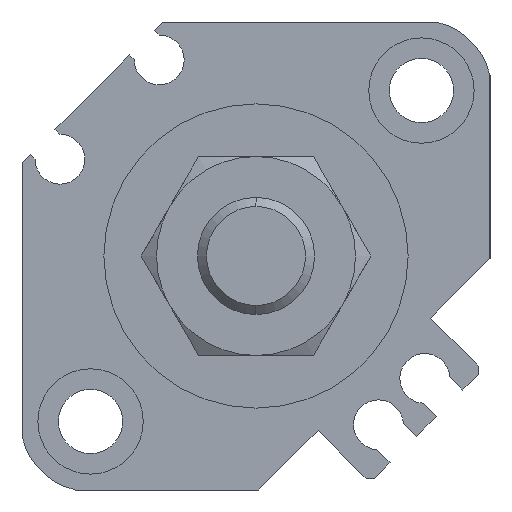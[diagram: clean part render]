
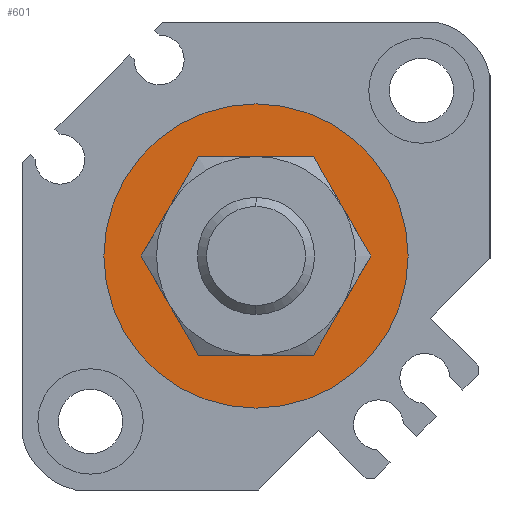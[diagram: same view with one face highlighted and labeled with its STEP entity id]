
A CAD part, left-side view. The second image highlights one B-rep face of the part: STEP entity #601.
In plain terms, the highlighted planar face has unit normal (-1, 0, 0).
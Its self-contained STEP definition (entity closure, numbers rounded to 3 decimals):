
#241 = DIRECTION ( 'NONE',  ( 1., 0., 0. ) ) ;
#343 = AXIS2_PLACEMENT_3D ( 'NONE', #344, #3637, #2446 ) ;
#344 = CARTESIAN_POINT ( 'NONE',  ( 1.9, 0., 0. ) ) ;
#488 = VERTEX_POINT ( 'NONE', #2181 ) ;
#600 = CIRCLE ( 'NONE', #2084, 7.5 ) ;
#601 = ADVANCED_FACE ( 'NONE', ( #4893, #3983 ), #3566, .F. ) ;
#632 = AXIS2_PLACEMENT_3D ( 'NONE', #2685, #2663, #1864 ) ;
#689 = CIRCLE ( 'NONE', #343, 13. ) ;
#704 = CARTESIAN_POINT ( 'NONE',  ( 1.9, 0., 0. ) ) ;
#790 = VERTEX_POINT ( 'NONE', #2851 ) ;
#1027 = DIRECTION ( 'NONE',  ( 0., 1., 0. ) ) ;
#1249 = ORIENTED_EDGE ( 'NONE', *, *, #5092, .T. ) ;
#1351 = CARTESIAN_POINT ( 'NONE',  ( 1.9, 0., 7.5 ) ) ;
#1459 = DIRECTION ( 'NONE',  ( 1., 0., 0. ) ) ;
#1807 = VERTEX_POINT ( 'NONE', #1351 ) ;
#1827 = CIRCLE ( 'NONE', #4887, 13. ) ;
#1864 = DIRECTION ( 'NONE',  ( 0., 0., -1. ) ) ;
#1911 = EDGE_CURVE ( 'NONE', #5201, #1807, #5097, .T. ) ;
#2084 = AXIS2_PLACEMENT_3D ( 'NONE', #2307, #1459, #3902 ) ;
#2181 = CARTESIAN_POINT ( 'NONE',  ( 1.9, 0., -13. ) ) ;
#2240 = DIRECTION ( 'NONE',  ( 1., 0., 0. ) ) ;
#2295 = AXIS2_PLACEMENT_3D ( 'NONE', #704, #241, #1027 ) ;
#2307 = CARTESIAN_POINT ( 'NONE',  ( 1.9, 0., 0. ) ) ;
#2446 = DIRECTION ( 'NONE',  ( 0., 0., -1. ) ) ;
#2587 = EDGE_LOOP ( 'NONE', ( #3935, #3874 ) ) ;
#2663 = DIRECTION ( 'NONE',  ( 1., 0., 0. ) ) ;
#2685 = CARTESIAN_POINT ( 'NONE',  ( 1.9, 0., 0. ) ) ;
#2851 = CARTESIAN_POINT ( 'NONE',  ( 1.9, 0., 13. ) ) ;
#3491 = CARTESIAN_POINT ( 'NONE',  ( 1.9, 0., 0. ) ) ;
#3566 = PLANE ( 'NONE',  #2295 ) ;
#3637 = DIRECTION ( 'NONE',  ( 1., 0., 0. ) ) ;
#3874 = ORIENTED_EDGE ( 'NONE', *, *, #4239, .F. ) ;
#3902 = DIRECTION ( 'NONE',  ( 0., 0., -1. ) ) ;
#3928 = CARTESIAN_POINT ( 'NONE',  ( 1.9, 0., -7.5 ) ) ;
#3935 = ORIENTED_EDGE ( 'NONE', *, *, #5268, .F. ) ;
#3983 = FACE_BOUND ( 'NONE', #4603, .T. ) ;
#4131 = ORIENTED_EDGE ( 'NONE', *, *, #1911, .T. ) ;
#4239 = EDGE_CURVE ( 'NONE', #488, #790, #1827, .T. ) ;
#4603 = EDGE_LOOP ( 'NONE', ( #1249, #4131 ) ) ;
#4887 = AXIS2_PLACEMENT_3D ( 'NONE', #3491, #2240, #5180 ) ;
#4893 = FACE_OUTER_BOUND ( 'NONE', #2587, .T. ) ;
#5092 = EDGE_CURVE ( 'NONE', #1807, #5201, #600, .T. ) ;
#5097 = CIRCLE ( 'NONE', #632, 7.5 ) ;
#5180 = DIRECTION ( 'NONE',  ( 0., 0., -1. ) ) ;
#5201 = VERTEX_POINT ( 'NONE', #3928 ) ;
#5268 = EDGE_CURVE ( 'NONE', #790, #488, #689, .T. ) ;
